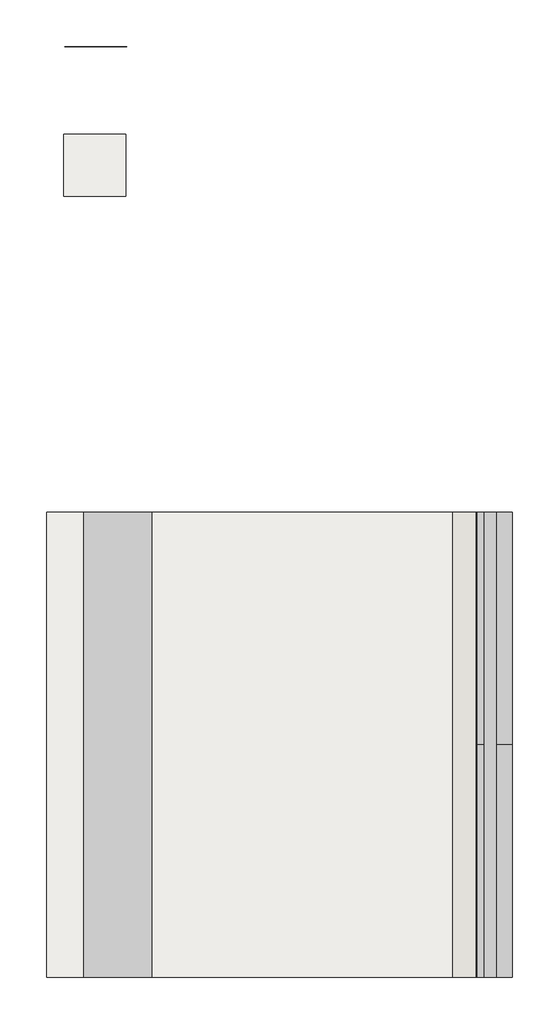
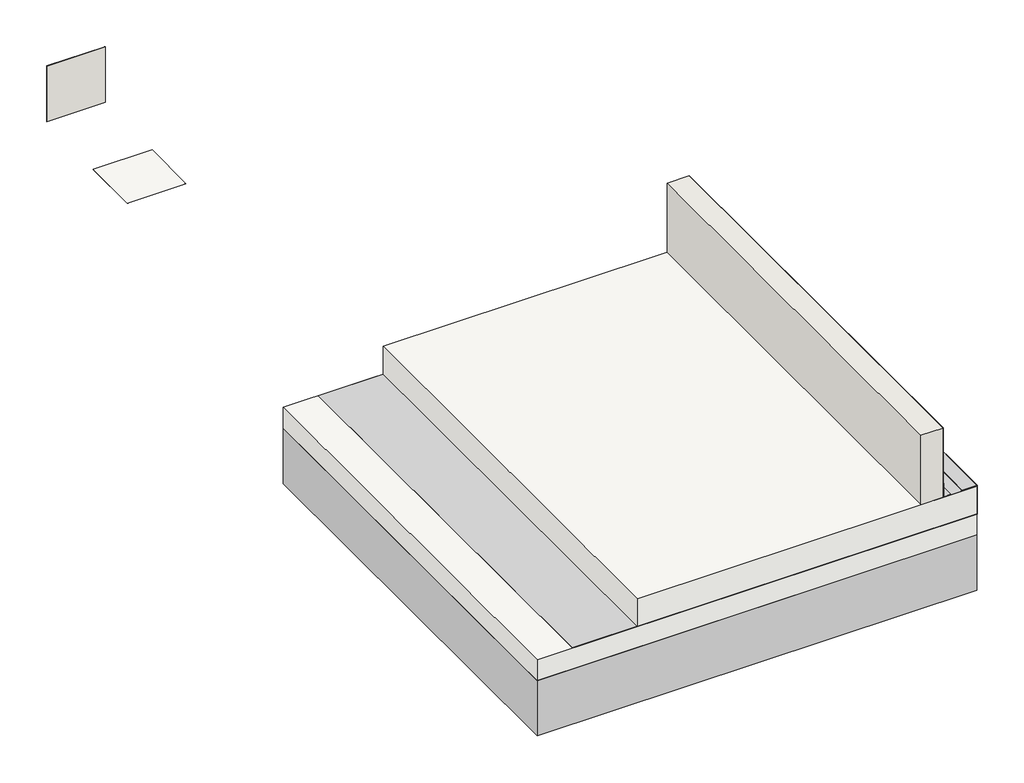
# One storey: 7 proxies, 3 slabs, 2 walls.
"""IFC4 building model written with IfcOpenShell, lengths in millimetres."""

from ifc_helpers import new_model, si_unit, frame, origin, place, context, project, spatial, polyline, outline, extrude, transform, mapped, element, save
from components import generic_models_b0066df1, generic_models_e5ace754, generic_models_e66ac73d, generic_models_a0de8182, generic_models_0eb552b0, generic_models_dc7ba5fb, generic_models_430df7a9

model = new_model("IFC4")

# Units and contexts
model_context = context("Model", 3, world=origin())
ifc_project = project(units=[si_unit("LENGTHUNIT", "METRE", prefix="MILLI")], contexts=[model_context])

# Site, building, storey
site = spatial("IfcSite", under=ifc_project)
building = spatial("IfcBuilding", under=site)
storey = spatial("IfcBuildingStorey", under=building, Name="ARQ Térreo", Elevation=-2.523798)

# Proxies
placement = place(None, origin())
generic_models_shape = generic_models_b0066df1(model_context)
element("IfcBuildingElementProxy", 1, Name="AMPHIBIA : AMPHIBIA", ObjectType="AMPHIBIA : AMPHIBIA", at=placement, inside=storey, context=model_context, shape_type="MappedRepresentation", body=[
    mapped(generic_models_shape, transform((0.0, 0.0, 0.0), x_axis=(1.0, 0.0, 0.0), y_axis=(0.0, 1.0, 0.0), z_axis=(0.0, 0.0, 1.0))),
])
generic_models_2_shape = generic_models_e5ace754(model_context)
element("IfcBuildingElementProxy", 2, Name="Amphibia Pressure Corner 90° : Amphibia Pressure Corner 90°", ObjectType="Amphibia Pressure Corner 90° : Amphibia Pressure Corner 90°", at=placement, inside=storey, context=model_context, shape_type="MappedRepresentation", body=[
    mapped(generic_models_2_shape, transform((0.0, 0.0, 0.0), x_axis=(1.0, 0.0, 0.0), y_axis=(0.0, 1.0, 0.0), z_axis=(0.0, 0.0, 1.0))),
])
generic_models_3_shape = generic_models_e66ac73d(model_context)
element("IfcBuildingElementProxy", 3, Name="Amphibia Pressure Corner 90°1 : Amphibia Pressure Corner 90°", ObjectType="Amphibia Pressure Corner 90°1 : Amphibia Pressure Corner 90°", at=placement, inside=storey, context=model_context, shape_type="MappedRepresentation", body=[
    mapped(generic_models_3_shape, transform((0.0, 0.0, 0.0), x_axis=(1.0, 0.0, 0.0), y_axis=(0.0, 1.0, 0.0), z_axis=(0.0, 0.0, 1.0))),
])
generic_models_4_shape = generic_models_a0de8182(model_context)
element("IfcBuildingElementProxy", 4, Name="Amphibia Pressure Corner 270° : Amphibia Pressure Corner 270°", ObjectType="Amphibia Pressure Corner 270° : Amphibia Pressure Corner 270°", at=placement, inside=storey, context=model_context, shape_type="MappedRepresentation", body=[
    mapped(generic_models_4_shape, transform((0.0, 0.0, 0.0), x_axis=(1.0, 0.0, 0.0), y_axis=(0.0, 1.0, 0.0), z_axis=(0.0, 0.0, 1.0))),
])
generic_models_5_shape = generic_models_0eb552b0(model_context)
element("IfcBuildingElementProxy", 5, Name="Amphibia Pressure Corner 270°1 : Amphibia Pressure Corner 270°", ObjectType="Amphibia Pressure Corner 270°1 : Amphibia Pressure Corner 270°", at=placement, inside=storey, context=model_context, shape_type="MappedRepresentation", body=[
    mapped(generic_models_5_shape, transform((0.0, 0.0, 0.0), x_axis=(1.0, 0.0, 0.0), y_axis=(0.0, 1.0, 0.0), z_axis=(0.0, 0.0, 1.0))),
])
generic_models_6_shape = generic_models_dc7ba5fb(model_context)
element("IfcBuildingElementProxy", 6, Name="Amphibia Pressure Line : Amphibia Pressure Line", ObjectType="Amphibia Pressure Line : Amphibia Pressure Line", at=placement, inside=storey, context=model_context, shape_type="MappedRepresentation", body=[
    mapped(generic_models_6_shape, transform((0.0, 0.0, 0.0), x_axis=(1.0, 0.0, 0.0), y_axis=(0.0, 1.0, 0.0), z_axis=(0.0, 0.0, 1.0))),
])
generic_models_7_shape = generic_models_430df7a9(model_context)
element("IfcBuildingElementProxy", 7, Name="Amphibia Pressure Line1 : Amphibia Pressure Line", ObjectType="Amphibia Pressure Line1 : Amphibia Pressure Line", at=placement, inside=storey, context=model_context, shape_type="MappedRepresentation", body=[
    mapped(generic_models_7_shape, transform((0.0, 0.0, 0.0), x_axis=(1.0, 0.0, 0.0), y_axis=(0.0, 1.0, 0.0), z_axis=(0.0, 0.0, 1.0))),
])

# Slabs
element("IfcSlab", 8, ObjectType="IMPH_AMPHIBIA", at=placement, inside=storey, context=model_context, shape_type="SweptSolid", body=[
    extrude(outline(polyline([(-390.7054055, 2581.0600798), (9.2945945, 2581.0600798), (9.2945945, 2181.0600798), (-390.7054055, 2181.0600798), (-390.7054055, 2581.0600798)])), frame((0.0, 0.0, -3.823798), z_axis=(0.0, 0.0, 1.0), x_axis=(1.0, 0.0, 0.0)), (0.0, 0.0, 1.0), 1.3),
])
element("IfcSlab", 9, ObjectType="LAJE DE SUBPRESSÃO", at=placement, inside=storey, context=model_context, shape_type="SweptSolid", body=[
    extrude(outline(polyline([(-501.9704105, 145.8700195), (2498.0295895, 145.8700195), (2498.0295895, -2854.1299805), (-501.9704105, -2854.1299805), (-501.9704105, 145.8700195)])), frame((0.0, 0.0, -353.823798), z_axis=(0.0, 0.0, 1.0), x_axis=(1.0, 0.0, 0.0)), (0.0, 0.0, 1.0), 150.0),
])
element("IfcSlab", 10, ObjectType="Piso:LAJE CONCRETO", at=placement, inside=storey, context=model_context, shape_type="SweptSolid", body=[
    extrude(outline(polyline([(179.5295895, 145.8700195), (2498.0295895, 145.8700195), (2498.0295895, -2854.1299805), (179.5295895, -2854.1299805), (179.5295895, 145.8700195)])), frame((0.0, 0.0, -202.523798), z_axis=(0.0, 0.0, 1.0), x_axis=(1.0, 0.0, 0.0)), (0.0, 0.0, 1.0), 200.0),
])

# Walls
element("IfcWall", 11, ObjectType="Parede básica:Parede Concreto", at=placement, inside=storey, context=model_context, shape_type="SweptSolid", body=[
    extrude(outline(polyline([(2116.5295895, -2854.1299805), (2116.5295895, 145.8700195), (2266.5295895, 145.8700195), (2266.5295895, -2854.1299805), (2116.5295895, -2854.1299805)])), frame((0.0, 0.0, -2.523798), z_axis=(0.0, 0.0, 1.0), x_axis=(1.0, 0.0, 0.0)), (0.0, 0.0, 1.0), 500.0),
])
element("IfcWall", 12, ObjectType="IMPV_AMPHIBIA", at=placement, inside=storey, context=model_context, shape_type="SweptSolid", body=[
    extrude(outline(polyline([(-383.4704105, 3147.1700195), (16.5295895, 3147.1700195), (16.5295895, 3145.8700195), (-383.4704105, 3145.8700195), (-383.4704105, 3147.1700195)])), frame((0.0, 0.0, -2.523798), z_axis=(0.0, 0.0, 1.0), x_axis=(1.0, 0.0, 0.0)), (0.0, 0.0, 1.0), 400.0),
])

save(model, "model.ifc")
